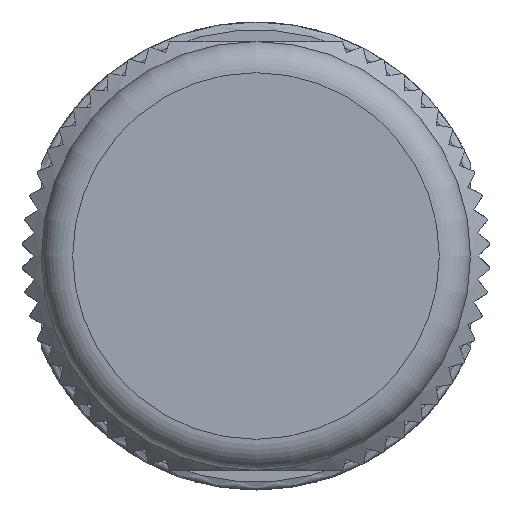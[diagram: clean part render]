
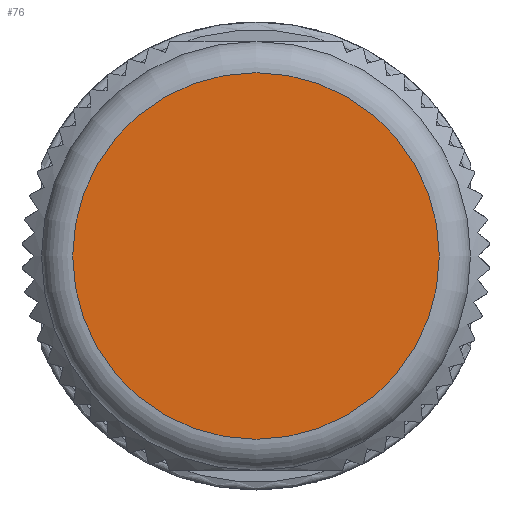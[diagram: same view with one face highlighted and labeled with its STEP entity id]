
A CAD part, left-side view. The second image highlights one B-rep face of the part: STEP entity #76.
In plain terms, the highlighted planar face has unit normal (-1, 0, 0).
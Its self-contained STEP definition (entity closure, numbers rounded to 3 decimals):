
#76 = ADVANCED_FACE( '', ( #581 ), #582, .F. );
#581 = FACE_OUTER_BOUND( '', #1614, .T. );
#582 = PLANE( '', #1615 );
#1614 = EDGE_LOOP( '', ( #2653 ) );
#1615 = AXIS2_PLACEMENT_3D( '', #2654, #2655, #2656 );
#2653 = ORIENTED_EDGE( '', *, *, #7033, .F. );
#2654 = CARTESIAN_POINT( '', ( 0., 0., 0. ) );
#2655 = DIRECTION( '', ( 1., 0., 0. ) );
#2656 = DIRECTION( '', ( 0., 0., -1. ) );
#7033 = EDGE_CURVE( '', #8475, #8475, #8476, .T. );
#8475 = VERTEX_POINT( '', #10877 );
#8476 = CIRCLE( '', #10878, 4.7 );
#10877 = CARTESIAN_POINT( '', ( 0., 0., -4.7 ) );
#10878 = AXIS2_PLACEMENT_3D( '', #15974, #15975, #15976 );
#15974 = CARTESIAN_POINT( '', ( 0., 0., 0. ) );
#15975 = DIRECTION( '', ( 1., 0., 0. ) );
#15976 = DIRECTION( '', ( 0., 0., -1. ) );
